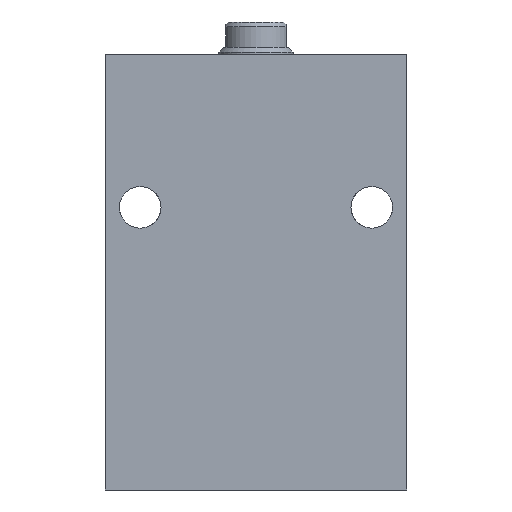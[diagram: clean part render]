
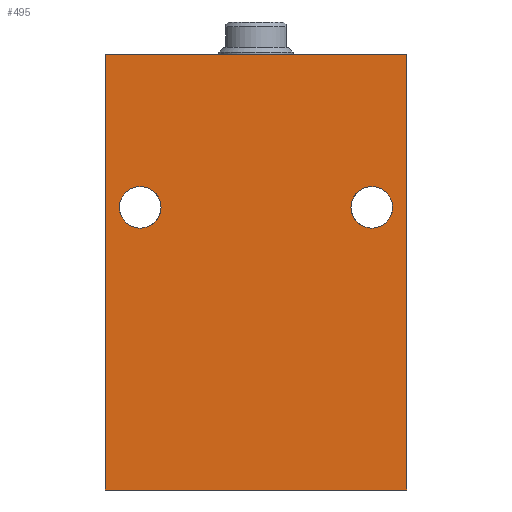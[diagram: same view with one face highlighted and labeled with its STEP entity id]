
A CAD part, front view. The second image highlights one B-rep face of the part: STEP entity #495.
In plain terms, the highlighted planar face has unit normal (0, -1, 0).
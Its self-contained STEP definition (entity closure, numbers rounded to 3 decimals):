
#8 = AXIS2_PLACEMENT_3D ( 'NONE', #1283, #1282, #1359 ) ;
#47 = AXIS2_PLACEMENT_3D ( 'NONE', #1160, #1159, #1158 ) ;
#56 = AXIS2_PLACEMENT_3D ( 'NONE', #1172, #1171, #1170 ) ;
#68 = AXIS2_PLACEMENT_3D ( 'NONE', #910, #909, #946 ) ;
#119 = ORIENTED_EDGE ( 'NONE', *, *, #2068, .T. ) ;
#120 = ORIENTED_EDGE ( 'NONE', *, *, #2075, .F. ) ;
#121 = ORIENTED_EDGE ( 'NONE', *, *, #2166, .F. ) ;
#122 = ORIENTED_EDGE ( 'NONE', *, *, #2074, .T. ) ;
#123 = ORIENTED_EDGE ( 'NONE', *, *, #2106, .T. ) ;
#124 = ORIENTED_EDGE ( 'NONE', *, *, #2073, .T. ) ;
#125 = ORIENTED_EDGE ( 'NONE', *, *, #2089, .T. ) ;
#126 = ORIENTED_EDGE ( 'NONE', *, *, #2070, .T. ) ;
#429 = VERTEX_POINT ( 'NONE', #612 ) ;
#434 = VERTEX_POINT ( 'NONE', #601 ) ;
#435 = VERTEX_POINT ( 'NONE', #600 ) ;
#453 = VERTEX_POINT ( 'NONE', #577 ) ;
#495 = ADVANCED_FACE ( 'NONE', ( #1909, #1906, #1907 ), #1135, .F. ) ;
#577 = CARTESIAN_POINT ( 'NONE',  ( 25., -22.5, 65.5 ) ) ;
#600 = CARTESIAN_POINT ( 'NONE',  ( -25., -22.5, 65.5 ) ) ;
#601 = CARTESIAN_POINT ( 'NONE',  ( 25., -22.5, 56.5 ) ) ;
#612 = CARTESIAN_POINT ( 'NONE',  ( -25., -22.5, 56.5 ) ) ;
#679 = DIRECTION ( 'NONE',  ( 0., 0., -1. ) ) ;
#680 = CARTESIAN_POINT ( 'NONE',  ( 32.5, -22.5, 94. ) ) ;
#909 = DIRECTION ( 'NONE',  ( 0., 1., 0. ) ) ;
#910 = CARTESIAN_POINT ( 'NONE',  ( 25., -22.5, 61. ) ) ;
#946 = DIRECTION ( 'NONE',  ( 0., 0., 1. ) ) ;
#1119 = DIRECTION ( 'NONE',  ( 0., 0., 1. ) ) ;
#1135 = PLANE ( 'NONE',  #2284 ) ;
#1143 = CARTESIAN_POINT ( 'NONE',  ( -32.5, -22.5, 94. ) ) ;
#1154 = DIRECTION ( 'NONE',  ( 1., 0., 0. ) ) ;
#1155 = CARTESIAN_POINT ( 'NONE',  ( -32.5, -22.5, 94. ) ) ;
#1158 = DIRECTION ( 'NONE',  ( 0., 0., 1. ) ) ;
#1159 = DIRECTION ( 'NONE',  ( 0., 1., 0. ) ) ;
#1160 = CARTESIAN_POINT ( 'NONE',  ( 25., -22.5, 61. ) ) ;
#1161 = CARTESIAN_POINT ( 'NONE',  ( -32.5, -22.5, 0. ) ) ;
#1170 = DIRECTION ( 'NONE',  ( 0., 0., 1. ) ) ;
#1171 = DIRECTION ( 'NONE',  ( 0., 1., 0. ) ) ;
#1172 = CARTESIAN_POINT ( 'NONE',  ( -25., -22.5, 61. ) ) ;
#1173 = DIRECTION ( 'NONE',  ( 1., 0., 0. ) ) ;
#1180 = DIRECTION ( 'NONE',  ( 0., 0., -1. ) ) ;
#1185 = CARTESIAN_POINT ( 'NONE',  ( -32.5, -22.5, 94. ) ) ;
#1214 = DIRECTION ( 'NONE',  ( 0., 1., 0. ) ) ;
#1282 = DIRECTION ( 'NONE',  ( 0., 1., 0. ) ) ;
#1283 = CARTESIAN_POINT ( 'NONE',  ( -25., -22.5, 61. ) ) ;
#1345 = CARTESIAN_POINT ( 'NONE',  ( 32.5, -22.5, 0. ) ) ;
#1347 = CARTESIAN_POINT ( 'NONE',  ( 32.5, -22.5, 94. ) ) ;
#1348 = CARTESIAN_POINT ( 'NONE',  ( -32.5, -22.5, 94. ) ) ;
#1359 = DIRECTION ( 'NONE',  ( 0., 0., 1. ) ) ;
#1382 = CARTESIAN_POINT ( 'NONE',  ( -32.5, -22.5, 0. ) ) ;
#1562 = EDGE_LOOP ( 'NONE', ( #122, #121, #120, #119 ) ) ;
#1577 = VERTEX_POINT ( 'NONE', #1382 ) ;
#1646 = CIRCLE ( 'NONE', #68, 4.5 ) ;
#1725 = CIRCLE ( 'NONE', #47, 4.5 ) ;
#1733 = VERTEX_POINT ( 'NONE', #1347 ) ;
#1750 = VERTEX_POINT ( 'NONE', #1345 ) ;
#1751 = VERTEX_POINT ( 'NONE', #1348 ) ;
#1758 = LINE ( 'NONE', #1185, #1783 ) ;
#1781 = VECTOR ( 'NONE', #1173, 1000. ) ;
#1783 = VECTOR ( 'NONE', #1180, 1000. ) ;
#1786 = LINE ( 'NONE', #1161, #1781 ) ;
#1821 = CIRCLE ( 'NONE', #8, 4.5 ) ;
#1822 = VECTOR ( 'NONE', #1154, 1000. ) ;
#1832 = LINE ( 'NONE', #1155, #1822 ) ;
#1894 = EDGE_LOOP ( 'NONE', ( #126, #125 ) ) ;
#1906 = FACE_BOUND ( 'NONE', #1971, .T. ) ;
#1907 = FACE_OUTER_BOUND ( 'NONE', #1562, .T. ) ;
#1909 = FACE_BOUND ( 'NONE', #1894, .T. ) ;
#1933 = CIRCLE ( 'NONE', #56, 4.5 ) ;
#1971 = EDGE_LOOP ( 'NONE', ( #124, #123 ) ) ;
#2068 = EDGE_CURVE ( 'NONE', #1751, #1577, #1758, .T. ) ;
#2070 = EDGE_CURVE ( 'NONE', #435, #429, #1933, .T. ) ;
#2073 = EDGE_CURVE ( 'NONE', #453, #434, #1725, .T. ) ;
#2074 = EDGE_CURVE ( 'NONE', #1577, #1750, #1786, .T. ) ;
#2075 = EDGE_CURVE ( 'NONE', #1751, #1733, #1832, .T. ) ;
#2089 = EDGE_CURVE ( 'NONE', #429, #435, #1821, .T. ) ;
#2106 = EDGE_CURVE ( 'NONE', #434, #453, #1646, .T. ) ;
#2166 = EDGE_CURVE ( 'NONE', #1733, #1750, #2441, .T. ) ;
#2284 = AXIS2_PLACEMENT_3D ( 'NONE', #1143, #1214, #1119 ) ;
#2439 = VECTOR ( 'NONE', #679, 1000. ) ;
#2441 = LINE ( 'NONE', #680, #2439 ) ;
